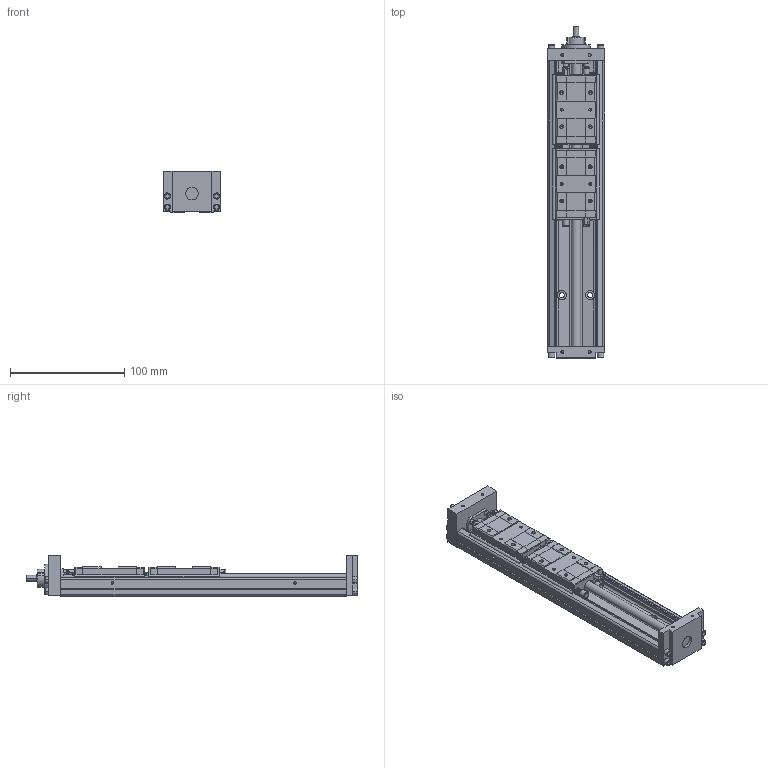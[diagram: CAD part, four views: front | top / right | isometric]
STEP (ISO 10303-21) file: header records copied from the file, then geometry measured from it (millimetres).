
FILE_DESCRIPTION(('no description'),'unknown implementation level');
FILE_NAME('KK5002P250A2H0000_FILE_23.stp',' ',('HIWIN GmbH'),('CADClick - KiM GmbH - www.kimweb.de'),'unknown preprocess','ACIS','unknown authorization');
FILE_SCHEMA(('automotive_design'));
Length unit declared in the file: millimetre
Products named in the file (3): KK5002P250A2H0000_FILE_1; KK50_FILE; KK5002P250A2H0000_FILE
Bounding box: 50 x 290.5 x 36 mm (x, y, z)
Volume: 238065.8 mm3; surface area: 78589.6 mm2
Topology: 3 solids, 15 shells, 919 faces, 2338 edges, 1477 vertices
Faces by surface type: plane 558, cylinder 239, cone 70, torus 52
Entity records: 54523 total; most frequent: CARTESIAN_POINT 5623, DIRECTION 4818, STYLED_ITEM 4699, PRESENTATION_STYLE_ASSIGNMENT 4699, COLOUR_RGB 4699, ORIENTED_EDGE 4600, EDGE_CURVE 2300, CURVE_STYLE 2300
